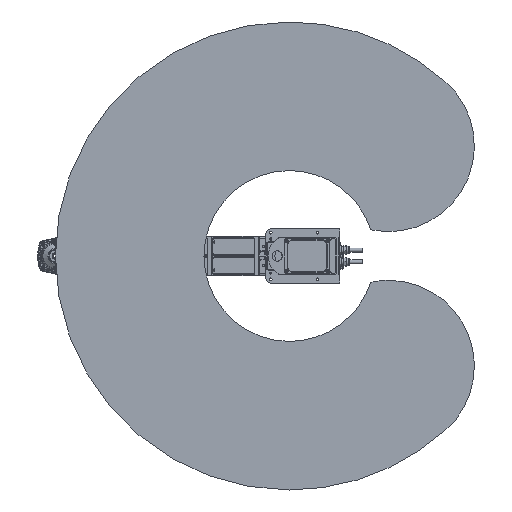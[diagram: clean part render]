
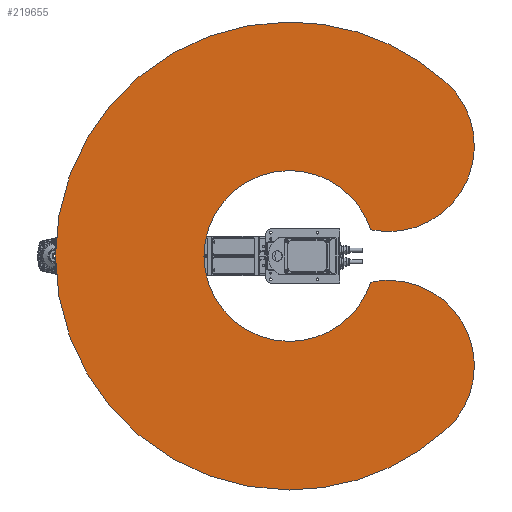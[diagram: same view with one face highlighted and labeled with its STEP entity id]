
A CAD part, front view. The second image highlights one B-rep face of the part: STEP entity #219655.
In plain terms, the highlighted planar face has unit normal (0, -1, 0).
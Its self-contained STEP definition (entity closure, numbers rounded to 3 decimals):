
#2202 = CARTESIAN_POINT ( 'NONE',  ( 0., -50., -750. ) ) ;
#6731 = CARTESIAN_POINT ( 'NONE',  ( 0., -50., 273.863 ) ) ;
#7152 = CARTESIAN_POINT ( 'NONE',  ( 0., -50., -273.863 ) ) ;
#17435 = DIRECTION ( 'NONE',  ( 0., 1., 0. ) ) ;
#19026 = VERTEX_POINT ( 'NONE', #7152 ) ;
#21168 = DIRECTION ( 'NONE',  ( 0., 0., 1. ) ) ;
#21836 = CIRCLE ( 'NONE', #130006, 750. ) ;
#23697 = DIRECTION ( 'NONE',  ( 0., 0., 1. ) ) ;
#24471 = CARTESIAN_POINT ( 'NONE',  ( 260.661, -50., 84.003 ) ) ;
#34112 = CARTESIAN_POINT ( 'NONE',  ( 158.919, -50., -176.497 ) ) ;
#36447 = ORIENTED_EDGE ( 'NONE', *, *, #43018, .F. ) ;
#37650 = AXIS2_PLACEMENT_3D ( 'NONE', #65866, #244809, #91590 ) ;
#43018 = EDGE_CURVE ( 'NONE', #252219, #196046, #317377, .T. ) ;
#48950 = CARTESIAN_POINT ( 'NONE',  ( 501.848, -50., 557.359 ) ) ;
#50830 = ORIENTED_EDGE ( 'NONE', *, *, #194522, .F. ) ;
#59831 = DIRECTION ( 'NONE',  ( 0., 1., 0. ) ) ;
#65691 = FACE_OUTER_BOUND ( 'NONE', #160530, .T. ) ;
#65866 = CARTESIAN_POINT ( 'NONE',  ( 0., -50., 0. ) ) ;
#71252 = ORIENTED_EDGE ( 'NONE', *, *, #313601, .F. ) ;
#75390 = CARTESIAN_POINT ( 'NONE',  ( 317.837, -50., -352.994 ) ) ;
#78393 = EDGE_CURVE ( 'NONE', #158296, #310550, #241268, .T. ) ;
#80079 = AXIS2_PLACEMENT_3D ( 'NONE', #75390, #254350, #101109 ) ;
#80415 = CIRCLE ( 'NONE', #80079, 275. ) ;
#84171 = EDGE_CURVE ( 'NONE', #161689, #19026, #141424, .T. ) ;
#90203 = DIRECTION ( 'NONE',  ( 0., 1., 0. ) ) ;
#91590 = DIRECTION ( 'NONE',  ( 0., 0., 1. ) ) ;
#92930 = CARTESIAN_POINT ( 'NONE',  ( 0., -50., 0. ) ) ;
#92933 = EDGE_CURVE ( 'NONE', #310550, #204095, #80415, .T. ) ;
#101109 = DIRECTION ( 'NONE',  ( 0., 0., 1. ) ) ;
#101465 = ORIENTED_EDGE ( 'NONE', *, *, #310291, .F. ) ;
#103318 = CIRCLE ( 'NONE', #156610, 750. ) ;
#104203 = CARTESIAN_POINT ( 'NONE',  ( 501.848, -50., -557.359 ) ) ;
#109884 = AXIS2_PLACEMENT_3D ( 'NONE', #34112, #59831, #238772 ) ;
#114134 = VERTEX_POINT ( 'NONE', #138185 ) ;
#116976 = AXIS2_PLACEMENT_3D ( 'NONE', #327674, #174375, #21168 ) ;
#117189 = CARTESIAN_POINT ( 'NONE',  ( 260.661, -50., -84.003 ) ) ;
#118658 = DIRECTION ( 'NONE',  ( 0., 0., 1. ) ) ;
#122140 = AXIS2_PLACEMENT_3D ( 'NONE', #145489, #324527, #171235 ) ;
#127951 = DIRECTION ( 'NONE',  ( 0., 1., 0. ) ) ;
#130006 = AXIS2_PLACEMENT_3D ( 'NONE', #281224, #127951, #306940 ) ;
#134930 = ORIENTED_EDGE ( 'NONE', *, *, #326781, .F. ) ;
#138185 = CARTESIAN_POINT ( 'NONE',  ( 0., -50., 750. ) ) ;
#141424 = CIRCLE ( 'NONE', #37650, 273.863 ) ;
#145489 = CARTESIAN_POINT ( 'NONE',  ( 317.837, -50., 352.994 ) ) ;
#147054 = VERTEX_POINT ( 'NONE', #2202 ) ;
#154426 = ORIENTED_EDGE ( 'NONE', *, *, #78393, .F. ) ;
#156610 = AXIS2_PLACEMENT_3D ( 'NONE', #170614, #17435, #196322 ) ;
#158296 = VERTEX_POINT ( 'NONE', #117189 ) ;
#160530 = EDGE_LOOP ( 'NONE', ( #154426, #134930, #278346, #71252, #36447, #50830, #101465, #252288, #161607 ) ) ;
#161607 = ORIENTED_EDGE ( 'NONE', *, *, #92933, .F. ) ;
#161689 = VERTEX_POINT ( 'NONE', #6731 ) ;
#170614 = CARTESIAN_POINT ( 'NONE',  ( 0., -50., 0. ) ) ;
#171235 = DIRECTION ( 'NONE',  ( 0., 0., 1. ) ) ;
#174375 = DIRECTION ( 'NONE',  ( 0., -1., 0. ) ) ;
#176936 = DIRECTION ( 'NONE',  ( 0., 1., 0. ) ) ;
#194522 = EDGE_CURVE ( 'NONE', #114134, #252219, #215651, .T. ) ;
#196046 = VERTEX_POINT ( 'NONE', #24471 ) ;
#196322 = DIRECTION ( 'NONE',  ( 0., 0., 1. ) ) ;
#204095 = VERTEX_POINT ( 'NONE', #104203 ) ;
#215651 = CIRCLE ( 'NONE', #298165, 750. ) ;
#219655 = ADVANCED_FACE ( 'NONE', ( #65691 ), #327465, .F. ) ;
#221879 = CIRCLE ( 'NONE', #275381, 273.863 ) ;
#222008 = CARTESIAN_POINT ( 'NONE',  ( 317.837, -50., -77.994 ) ) ;
#238772 = DIRECTION ( 'NONE',  ( 0., 0., 1. ) ) ;
#241268 = CIRCLE ( 'NONE', #289609, 275. ) ;
#241422 = EDGE_CURVE ( 'NONE', #204095, #147054, #21836, .T. ) ;
#243414 = CARTESIAN_POINT ( 'NONE',  ( 317.837, -50., -352.994 ) ) ;
#244809 = DIRECTION ( 'NONE',  ( 0., -1., 0. ) ) ;
#252219 = VERTEX_POINT ( 'NONE', #48950 ) ;
#252288 = ORIENTED_EDGE ( 'NONE', *, *, #241422, .F. ) ;
#254350 = DIRECTION ( 'NONE',  ( 0., 1., 0. ) ) ;
#258272 = CIRCLE ( 'NONE', #116976, 273.863 ) ;
#269220 = DIRECTION ( 'NONE',  ( 0., 0., 1. ) ) ;
#271950 = DIRECTION ( 'NONE',  ( 0., -1., 0. ) ) ;
#275381 = AXIS2_PLACEMENT_3D ( 'NONE', #92930, #271950, #118658 ) ;
#278346 = ORIENTED_EDGE ( 'NONE', *, *, #84171, .F. ) ;
#281224 = CARTESIAN_POINT ( 'NONE',  ( 0., -50., 0. ) ) ;
#289609 = AXIS2_PLACEMENT_3D ( 'NONE', #243414, #90203, #269220 ) ;
#298165 = AXIS2_PLACEMENT_3D ( 'NONE', #330219, #176936, #23697 ) ;
#306940 = DIRECTION ( 'NONE',  ( 0., 0., 1. ) ) ;
#310291 = EDGE_CURVE ( 'NONE', #147054, #114134, #103318, .T. ) ;
#310550 = VERTEX_POINT ( 'NONE', #222008 ) ;
#313601 = EDGE_CURVE ( 'NONE', #196046, #161689, #221879, .T. ) ;
#317377 = CIRCLE ( 'NONE', #122140, 275. ) ;
#324527 = DIRECTION ( 'NONE',  ( 0., 1., 0. ) ) ;
#326781 = EDGE_CURVE ( 'NONE', #19026, #158296, #258272, .T. ) ;
#327465 = PLANE ( 'NONE',  #109884 ) ;
#327674 = CARTESIAN_POINT ( 'NONE',  ( 0., -50., 0. ) ) ;
#330219 = CARTESIAN_POINT ( 'NONE',  ( 0., -50., 0. ) ) ;
